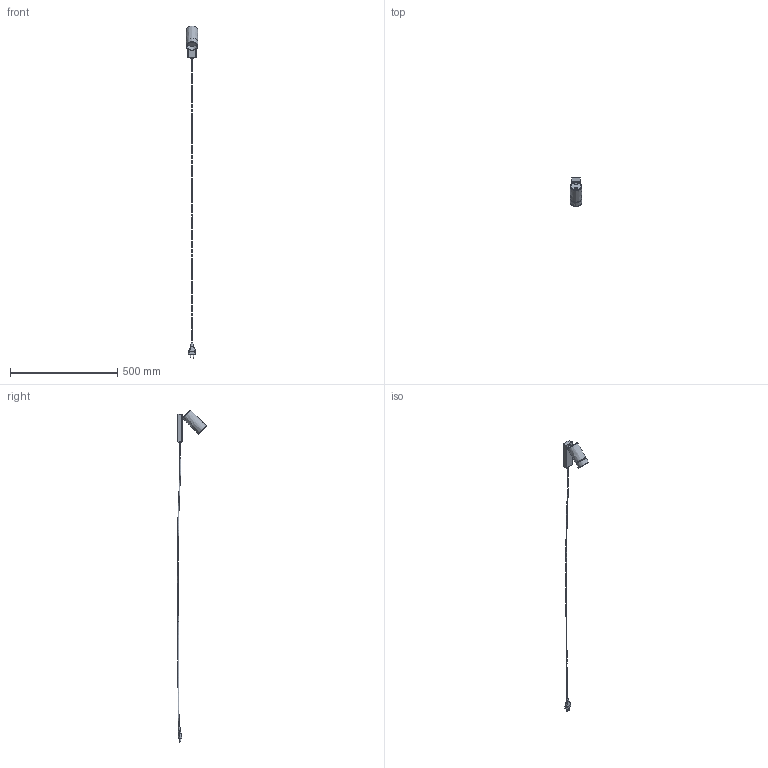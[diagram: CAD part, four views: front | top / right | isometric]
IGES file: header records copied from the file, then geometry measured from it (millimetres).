
Start section: SolidWorks IGES file using NURBS representation for surfaces
Global section: file name: Z:\Modele 3D_WWW\_KOLEKCJE_WWW\MONO\MONO-BELKA\7781\MONO-I-KINKIET-PRZEWÓD-BRASS-7781.IGS; native system: SolidWorks 2021; preprocessor: SolidWorks 2021; author: gabriela.tworek; date: 220121.143053; units: millimetre
Bounding box: 55 x 135.87 x 1551.33 mm (x, y, z)
Surface area: 90591.6 mm2 (no closed solid volume)
Topology: 0 solids, 0 shells, 119 faces, 600 edges, 588 vertices
Faces by surface type: bspline 119
